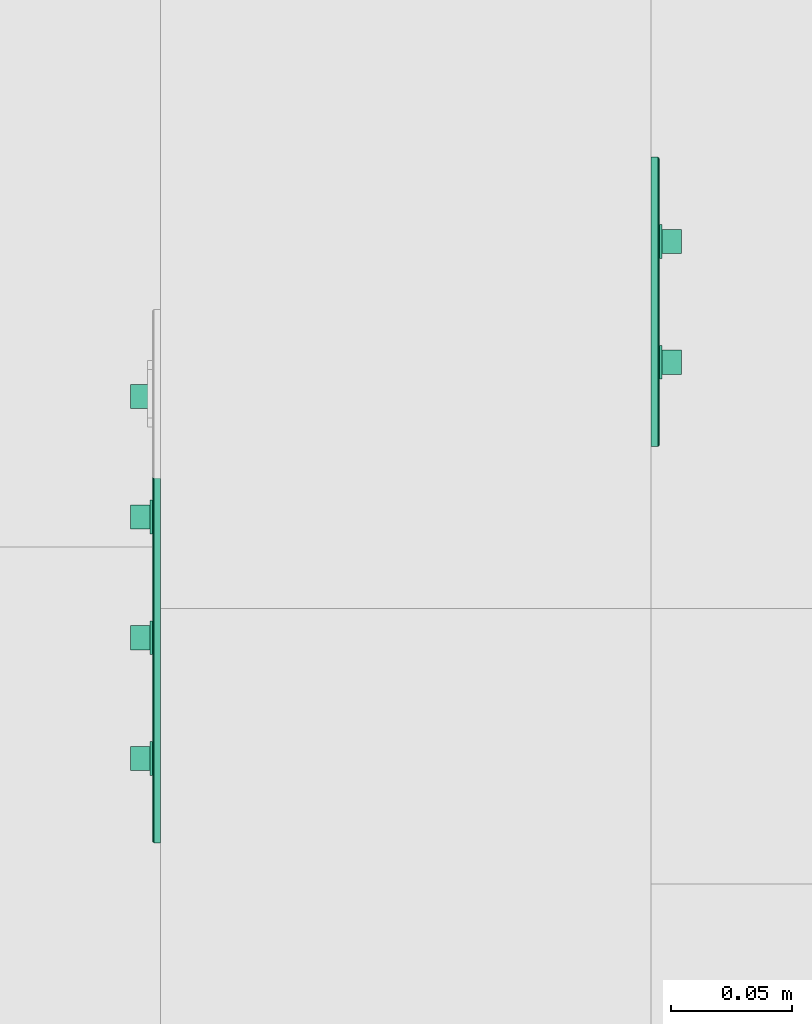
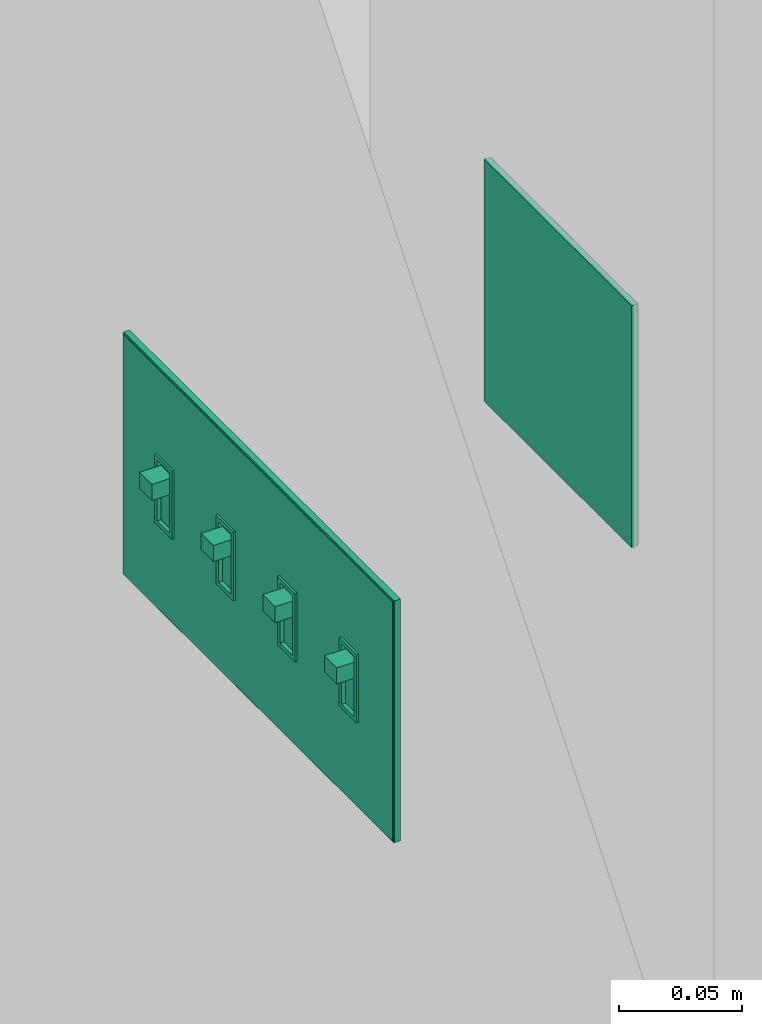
# One storey, part 20 of 103: 2 flow controllers.
"""IFC2X3 building model written with IfcOpenShell, lengths in inches."""

from ifc_helpers import new_model, entity, si_unit, converted_unit, derived_unit, money_unit, direction, frame, origin_with_axes, place, context, subcontext, project, spatial, faceted_brep, source, transform, mapped, type_object, element, save


model = new_model("IFC2X3")

# Units and contexts
model_context = context("Model", 3, precision=0.00039370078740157, world=origin_with_axes(), true_north=direction((0.0, 1.0)))
plan_context = context("Plan", 3, precision=0.00039370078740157, world=origin_with_axes(), true_north=direction((0.0, 1.0)))
body_context = subcontext(model_context, "Body", "Model", "MODEL_VIEW")
ifc_project = project(units=[converted_unit("LENGTHUNIT", "INCH", entity("IfcPositiveLengthMeasure", 0.0254), si_unit("LENGTHUNIT", "METRE"), dimensions=[1, 0, 0, 0, 0, 0, 0]), converted_unit("AREAUNIT", "SQUARE_FOOT", entity("IfcPositiveLengthMeasure", 0.09290304), si_unit("AREAUNIT", "SQUARE_METRE"), dimensions=[2, 0, 0, 0, 0, 0, 0]), si_unit("PLANEANGLEUNIT", "RADIAN"), si_unit("SOLIDANGLEUNIT", "STERADIAN"), money_unit("USD"), converted_unit("TIMEUNIT", "Year", entity("IfcTimeMeasure", 31557600.0), si_unit("TIMEUNIT", "SECOND"), dimensions=[0, 0, 1, 0, 0, 0, 0]), si_unit("MASSUNIT", "GRAM", prefix="KILO"), si_unit("THERMODYNAMICTEMPERATUREUNIT", "DEGREE_CELSIUS"), si_unit("LUMINOUSINTENSITYUNIT", "LUMEN"), si_unit("ENERGYUNIT", "JOULE", prefix="MEGA"), derived_unit("SPECIFICHEATCAPACITYUNIT", [(si_unit("ENERGYUNIT", "JOULE"), 1), (si_unit("MASSUNIT", "GRAM", prefix="KILO"), -1), (si_unit("THERMODYNAMICTEMPERATUREUNIT", "KELVIN"), -1)])], contexts=[model_context, plan_context])

# Site, building, storey
site_placement = place(None, origin_with_axes())
site = spatial("IfcSite", under=ifc_project, at=site_placement, Name="Site", CompositionType="ELEMENT")
building_placement = place(site_placement, origin_with_axes())
building = spatial("IfcBuilding", under=site, at=building_placement, Name="Building", CompositionType="ELEMENT")
storey_placement = place(building_placement, frame((0.0, 0.0, 127.9999999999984), z_axis=(0.0, 0.0, 1.0), x_axis=(1.0, 0.0, 0.0)))
storey = spatial("IfcBuildingStorey", under=building, at=storey_placement, Name="Second Floor", CompositionType="ELEMENT", Elevation=128.0)

# Flow controllers
switching_device_type = type_object("IfcSwitchingDeviceType", Name="Switch US", PredefinedType="NOTDEFINED")
shared_shape_1 = source(origin_with_axes(), body_context, "Body", "Brep", [
    faceted_brep([(3.14960629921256, 0.0, -0.5905511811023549), (2.755905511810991, 0.0, -0.5905511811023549), (2.755905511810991, 0.0, 0.5905511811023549), (3.14960629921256, 0.0, 0.5905511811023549), (3.14960629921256, -0.1033464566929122, -0.5905511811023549), (2.755905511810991, -0.1033464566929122, -0.5905511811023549), (2.755905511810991, -0.1033464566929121, 0.157480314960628), (2.755905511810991, -0.4970472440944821, 0.1574803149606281), (2.755905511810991, -0.4970472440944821, 0.472440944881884), (2.755905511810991, -0.1033464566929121, 0.472440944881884), (2.755905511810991, -0.1033464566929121, 0.5905511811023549), (3.14960629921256, -0.103346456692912, 0.5905511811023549), (3.14960629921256, -0.1033464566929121, 0.472440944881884), (3.14960629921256, -0.4970472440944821, 0.472440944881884), (3.14960629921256, -0.4970472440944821, 0.1574803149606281), (3.14960629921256, -0.1033464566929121, 0.157480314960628)], [[[0, 1, 2, 3]], [[4, 5, 1, 0]], [[1, 5, 6, 7, 8, 9, 10, 2]], [[3, 2, 10, 11]], [[0, 3, 11, 12, 13, 14, 15, 4]], [[15, 6, 5, 4]], [[14, 7, 6, 15]], [[13, 8, 7, 14]], [[12, 9, 8, 13]], [[11, 10, 9, 12]]]),
    faceted_brep([(3.228346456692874, 0.0, -0.669291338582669), (3.228346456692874, -0.1771653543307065, -0.669291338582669), (2.677165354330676, -0.1771653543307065, -0.669291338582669), (2.677165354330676, 0.0, -0.669291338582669), (3.228346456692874, 0.0, 0.669291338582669), (3.228346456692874, -0.1771653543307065, 0.669291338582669), (2.677165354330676, -0.1771653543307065, 0.669291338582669), (3.14960629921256, -0.1771653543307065, -0.5905511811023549), (2.75590551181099, -0.1771653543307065, -0.5905511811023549), (2.75590551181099, -0.1771653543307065, 0.5905511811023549), (3.14960629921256, -0.1771653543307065, 0.5905511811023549), (2.677165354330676, 0.0, 0.669291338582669), (3.14960629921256, 0.0, -0.5905511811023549), (3.14960629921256, 0.0, 0.5905511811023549), (2.75590551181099, 0.0, 0.5905511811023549), (2.75590551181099, 0.0, -0.5905511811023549)], [[[0, 1, 2, 3]], [[4, 5, 1, 0]], [[1, 5, 6, 2], [7, 8, 9, 10]], [[3, 2, 6, 11]], [[0, 3, 11, 4], [12, 13, 14, 15]], [[11, 6, 5, 4]], [[15, 8, 7, 12]], [[14, 9, 8, 15]], [[13, 10, 9, 14]], [[12, 7, 10, 13]]]),
    faceted_brep([(1.968503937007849, -0.103346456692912, 2.362204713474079), (4.330708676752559, -0.103346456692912, 2.362204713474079), (4.330708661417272, 0.0, 2.36220472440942), (1.968503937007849, 0.0, 2.36220472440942), (1.968503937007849, -0.1122624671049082, 2.361030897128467), (4.329534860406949, -0.1122624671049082, 2.361030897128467), (4.330708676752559, -0.1033464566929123, -2.36220473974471), (4.330708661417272, 0.0, -2.36220472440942), (1.968503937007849, 0.0, -2.36220472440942), (2.677165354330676, 0.0, -0.669291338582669), (3.228346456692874, 0.0, -0.669291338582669), (3.228346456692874, 0.0, 0.669291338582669), (2.677165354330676, 0.0, 0.669291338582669), (1.968503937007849, -0.1033464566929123, -2.36220473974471), (1.968503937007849, -0.1122624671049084, -2.361030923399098), (1.968503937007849, -0.1277054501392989, -2.352114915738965), (1.968503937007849, -0.1366214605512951, -2.336671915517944), (1.968503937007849, -0.1377952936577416, -2.327755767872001), (1.968503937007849, -0.1377952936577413, 2.32775574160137), (1.968503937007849, -0.1366214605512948, 2.336671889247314), (1.968503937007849, -0.1277054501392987, 2.352114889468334), (4.320618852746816, -0.1277054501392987, 2.352114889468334), (4.329534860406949, -0.1122624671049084, -2.361030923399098), (2.677165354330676, -0.1377952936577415, -0.669291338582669), (3.228346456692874, -0.1377952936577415, -0.669291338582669), (3.228346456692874, -0.1377952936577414, 0.669291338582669), (2.677165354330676, -0.1377952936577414, 0.669291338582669), (4.320618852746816, -0.1277054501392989, -2.352114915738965), (4.305175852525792, -0.1366214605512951, -2.336671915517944), (4.296259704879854, -0.1377952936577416, -2.327755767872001), (4.296259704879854, -0.1377952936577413, 2.32775574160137), (4.305175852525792, -0.1366214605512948, 2.336671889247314)], [[[0, 1, 2, 3]], [[4, 5, 1, 0]], [[6, 7, 2, 1]], [[3, 2, 7, 8], [9, 10, 11, 12]], [[8, 13, 14, 15, 16, 17, 18, 19, 20, 4, 0, 3]], [[20, 21, 5, 4]], [[22, 6, 1, 5]], [[8, 7, 6, 13]], [[10, 9, 23, 24]], [[11, 10, 24, 25]], [[12, 11, 25, 26]], [[9, 12, 26, 23]], [[13, 6, 22, 14]], [[14, 22, 27, 15]], [[15, 27, 28, 16]], [[16, 28, 29, 17]], [[17, 29, 30, 18], [25, 24, 23, 26]], [[18, 30, 31, 19]], [[19, 31, 21, 20]], [[27, 22, 5, 21]], [[28, 27, 21, 31]], [[29, 28, 31, 30]]]),
    faceted_brep([(1.18110236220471, 0.0, -0.5905511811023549), (0.7874015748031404, 0.0, -0.5905511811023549), (0.7874015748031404, 0.0, 0.5905511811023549), (1.18110236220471, 0.0, 0.5905511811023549), (1.18110236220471, -0.1033464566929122, -0.5905511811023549), (0.7874015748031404, -0.1033464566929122, -0.5905511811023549), (0.7874015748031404, -0.1033464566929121, 0.157480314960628), (0.7874015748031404, -0.4970472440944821, 0.1574803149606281), (0.7874015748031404, -0.4970472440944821, 0.472440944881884), (0.7874015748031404, -0.1033464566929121, 0.472440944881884), (0.7874015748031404, -0.1033464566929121, 0.5905511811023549), (1.18110236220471, -0.103346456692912, 0.5905511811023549), (1.18110236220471, -0.1033464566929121, 0.472440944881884), (1.18110236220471, -0.4970472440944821, 0.472440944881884), (1.18110236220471, -0.4970472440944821, 0.1574803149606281), (1.18110236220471, -0.1033464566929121, 0.157480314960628)], [[[0, 1, 2, 3]], [[4, 5, 1, 0]], [[1, 5, 6, 7, 8, 9, 10, 2]], [[3, 2, 10, 11]], [[0, 3, 11, 12, 13, 14, 15, 4]], [[15, 6, 5, 4]], [[14, 7, 6, 15]], [[13, 8, 7, 14]], [[12, 9, 8, 13]], [[11, 10, 9, 12]]]),
    faceted_brep([(1.259842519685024, 0.0, -0.669291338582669), (1.259842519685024, -0.1771653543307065, -0.669291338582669), (0.7086614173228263, -0.1771653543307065, -0.669291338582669), (0.7086614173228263, 0.0, -0.669291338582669), (1.259842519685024, 0.0, 0.669291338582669), (1.259842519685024, -0.1771653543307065, 0.669291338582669), (0.7086614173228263, -0.1771653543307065, 0.669291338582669), (1.18110236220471, -0.1771653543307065, -0.5905511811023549), (0.7874015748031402, -0.1771653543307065, -0.5905511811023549), (0.7874015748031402, -0.1771653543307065, 0.5905511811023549), (1.18110236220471, -0.1771653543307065, 0.5905511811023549), (0.7086614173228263, 0.0, 0.669291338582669), (1.18110236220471, 0.0, -0.5905511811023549), (1.18110236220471, 0.0, 0.5905511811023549), (0.7874015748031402, 0.0, 0.5905511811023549), (0.7874015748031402, 0.0, -0.5905511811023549)], [[[0, 1, 2, 3]], [[4, 5, 1, 0]], [[1, 5, 6, 2], [7, 8, 9, 10]], [[3, 2, 6, 11]], [[0, 3, 11, 4], [12, 13, 14, 15]], [[11, 6, 5, 4]], [[15, 8, 7, 12]], [[14, 9, 8, 15]], [[13, 10, 9, 14]], [[12, 7, 10, 13]]]),
    faceted_brep([(1.968503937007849, 0.0, -2.36220472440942), (0.0, 0.0, -2.36220472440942), (0.0, 0.0, 2.36220472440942), (1.968503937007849, 0.0, 2.36220472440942), (0.7086614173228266, 0.0, 0.669291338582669), (0.7086614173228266, 0.0, -0.669291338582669), (1.259842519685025, 0.0, -0.669291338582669), (1.259842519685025, 0.0, 0.669291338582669), (1.968503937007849, -0.1033464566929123, -2.36220473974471), (0.0, -0.1033464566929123, -2.36220473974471), (0.0, -0.1277054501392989, -2.352114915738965), (0.0, -0.1366214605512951, -2.336671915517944), (0.0, -0.1377952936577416, -2.327755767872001), (0.0, -0.1377952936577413, 2.32775574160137), (0.0, -0.1366214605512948, 2.336671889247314), (0.0, -0.1277054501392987, 2.352114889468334), (0.0, -0.1122624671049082, 2.361030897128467), (0.0, -0.103346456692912, 2.362204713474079), (0.0, -0.1122624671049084, -2.361030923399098), (1.968503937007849, -0.103346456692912, 2.362204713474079), (1.968503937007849, -0.1122624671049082, 2.361030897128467), (1.968503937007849, -0.1277054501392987, 2.352114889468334), (1.968503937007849, -0.1366214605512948, 2.336671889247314), (1.968503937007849, -0.1377952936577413, 2.32775574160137), (1.968503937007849, -0.1377952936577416, -2.327755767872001), (1.968503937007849, -0.1366214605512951, -2.336671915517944), (1.968503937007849, -0.1277054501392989, -2.352114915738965), (1.968503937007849, -0.1122624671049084, -2.361030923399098), (0.7086614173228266, -0.1377952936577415, -0.669291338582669), (0.7086614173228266, -0.1377952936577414, 0.669291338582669), (1.259842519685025, -0.1377952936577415, -0.669291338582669), (1.259842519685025, -0.1377952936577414, 0.669291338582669)], [[[0, 1, 2, 3], [4, 5, 6, 7]], [[8, 9, 1, 0]], [[10, 11, 12, 13, 14, 15, 16, 17, 2, 1, 9, 18]], [[3, 2, 17, 19]], [[19, 20, 21, 22, 23, 24, 25, 26, 27, 8, 0, 3]], [[28, 5, 4, 29]], [[30, 6, 5, 28]], [[31, 7, 6, 30]], [[29, 4, 7, 31]], [[27, 18, 9, 8]], [[25, 11, 10, 26]], [[24, 12, 11, 25]], [[23, 13, 12, 24], [29, 31, 30, 28]], [[22, 14, 13, 23]], [[21, 15, 14, 22]], [[20, 16, 15, 21]], [[19, 17, 16, 20]], [[26, 10, 18, 27]]]),
    faceted_brep([(-0.7874015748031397, 0.0, -0.5905511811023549), (-1.18110236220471, 0.0, -0.5905511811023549), (-1.18110236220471, 0.0, 0.5905511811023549), (-0.7874015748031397, 0.0, 0.5905511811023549), (-0.7874015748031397, -0.1033464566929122, -0.5905511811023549), (-1.18110236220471, -0.1033464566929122, -0.5905511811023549), (-1.18110236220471, -0.1033464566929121, 0.157480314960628), (-1.18110236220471, -0.4970472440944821, 0.1574803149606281), (-1.18110236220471, -0.4970472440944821, 0.472440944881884), (-1.18110236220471, -0.1033464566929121, 0.472440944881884), (-1.18110236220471, -0.1033464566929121, 0.5905511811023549), (-0.7874015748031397, -0.103346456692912, 0.5905511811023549), (-0.7874015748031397, -0.1033464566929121, 0.472440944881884), (-0.7874015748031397, -0.4970472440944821, 0.472440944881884), (-0.7874015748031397, -0.4970472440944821, 0.1574803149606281), (-0.7874015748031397, -0.1033464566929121, 0.157480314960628)], [[[0, 1, 2, 3]], [[4, 5, 1, 0]], [[1, 5, 6, 7, 8, 9, 10, 2]], [[3, 2, 10, 11]], [[0, 3, 11, 12, 13, 14, 15, 4]], [[15, 6, 5, 4]], [[14, 7, 6, 15]], [[13, 8, 7, 14]], [[12, 9, 8, 13]], [[11, 10, 9, 12]]]),
    faceted_brep([(-0.7086614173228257, 0.0, -0.669291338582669), (-0.7086614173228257, -0.1771653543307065, -0.669291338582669), (-1.259842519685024, -0.1771653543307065, -0.669291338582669), (-1.259842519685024, 0.0, -0.669291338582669), (-0.7086614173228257, 0.0, 0.669291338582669), (-0.7086614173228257, -0.1771653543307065, 0.669291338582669), (-1.259842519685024, -0.1771653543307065, 0.669291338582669), (-0.7874015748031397, -0.1771653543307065, -0.5905511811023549), (-1.18110236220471, -0.1771653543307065, -0.5905511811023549), (-1.18110236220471, -0.1771653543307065, 0.5905511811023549), (-0.7874015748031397, -0.1771653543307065, 0.5905511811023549), (-1.259842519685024, 0.0, 0.669291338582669), (-0.7874015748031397, 0.0, -0.5905511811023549), (-0.7874015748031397, 0.0, 0.5905511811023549), (-1.18110236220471, 0.0, 0.5905511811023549), (-1.18110236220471, 0.0, -0.5905511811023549)], [[[0, 1, 2, 3]], [[4, 5, 1, 0]], [[1, 5, 6, 2], [7, 8, 9, 10]], [[3, 2, 6, 11]], [[0, 3, 11, 4], [12, 13, 14, 15]], [[11, 6, 5, 4]], [[15, 8, 7, 12]], [[14, 9, 8, 15]], [[13, 10, 9, 14]], [[12, 7, 10, 13]]]),
    faceted_brep([(0.0, 0.0, -2.36220472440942), (-1.968503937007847, 0.0, -2.36220472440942), (-1.968503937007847, 0.0, 2.36220472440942), (0.0, 0.0, 2.36220472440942), (-1.259842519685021, 0.0, 0.669291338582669), (-1.259842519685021, 0.0, -0.669291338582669), (-0.7086614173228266, 0.0, -0.669291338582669), (-0.7086614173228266, 0.0, 0.669291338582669), (0.0, -0.1033464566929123, -2.36220473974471), (-1.968503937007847, -0.1033464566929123, -2.36220473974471), (-1.968503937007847, -0.1277054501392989, -2.352114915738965), (-1.968503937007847, -0.1366214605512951, -2.336671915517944), (-1.968503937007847, -0.1377952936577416, -2.327755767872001), (-1.968503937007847, -0.1377952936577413, 2.32775574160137), (-1.968503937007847, -0.1366214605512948, 2.336671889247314), (-1.968503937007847, -0.1277054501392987, 2.352114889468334), (-1.968503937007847, -0.1122624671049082, 2.361030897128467), (-1.968503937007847, -0.103346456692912, 2.362204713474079), (-1.968503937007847, -0.1122624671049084, -2.361030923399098), (0.0, -0.103346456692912, 2.362204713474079), (0.0, -0.1122624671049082, 2.361030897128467), (0.0, -0.1277054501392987, 2.352114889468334), (0.0, -0.1366214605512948, 2.336671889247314), (0.0, -0.1377952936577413, 2.32775574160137), (0.0, -0.1377952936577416, -2.327755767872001), (0.0, -0.1366214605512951, -2.336671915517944), (0.0, -0.1277054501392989, -2.352114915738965), (0.0, -0.1122624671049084, -2.361030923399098), (-1.259842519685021, -0.1377952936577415, -0.669291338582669), (-1.259842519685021, -0.1377952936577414, 0.669291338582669), (-0.7086614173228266, -0.1377952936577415, -0.669291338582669), (-0.7086614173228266, -0.1377952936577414, 0.669291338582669)], [[[0, 1, 2, 3], [4, 5, 6, 7]], [[8, 9, 1, 0]], [[10, 11, 12, 13, 14, 15, 16, 17, 2, 1, 9, 18]], [[3, 2, 17, 19]], [[19, 20, 21, 22, 23, 24, 25, 26, 27, 8, 0, 3]], [[28, 5, 4, 29]], [[30, 6, 5, 28]], [[31, 7, 6, 30]], [[29, 4, 7, 31]], [[27, 18, 9, 8]], [[25, 11, 10, 26]], [[24, 12, 11, 25]], [[23, 13, 12, 24], [29, 31, 30, 28]], [[22, 14, 13, 23]], [[21, 15, 14, 22]], [[20, 16, 15, 21]], [[19, 17, 16, 20]], [[26, 10, 18, 27]]]),
    faceted_brep([(-2.755905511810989, 0.0, -0.5905511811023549), (-3.14960629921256, 0.0, -0.5905511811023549), (-3.14960629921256, 0.0, 0.5905511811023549), (-2.755905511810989, 0.0, 0.5905511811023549), (-2.755905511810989, -0.1033464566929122, -0.5905511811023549), (-3.14960629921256, -0.1033464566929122, -0.5905511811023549), (-3.14960629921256, -0.1033464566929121, 0.157480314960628), (-3.14960629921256, -0.4970472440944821, 0.1574803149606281), (-3.14960629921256, -0.4970472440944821, 0.472440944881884), (-3.14960629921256, -0.1033464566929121, 0.472440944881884), (-3.14960629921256, -0.1033464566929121, 0.5905511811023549), (-2.755905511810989, -0.103346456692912, 0.5905511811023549), (-2.755905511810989, -0.1033464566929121, 0.472440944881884), (-2.755905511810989, -0.4970472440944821, 0.472440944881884), (-2.755905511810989, -0.4970472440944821, 0.1574803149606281), (-2.755905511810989, -0.1033464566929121, 0.157480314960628)], [[[0, 1, 2, 3]], [[4, 5, 1, 0]], [[1, 5, 6, 7, 8, 9, 10, 2]], [[3, 2, 10, 11]], [[0, 3, 11, 12, 13, 14, 15, 4]], [[15, 6, 5, 4]], [[14, 7, 6, 15]], [[13, 8, 7, 14]], [[12, 9, 8, 13]], [[11, 10, 9, 12]]]),
    faceted_brep([(-2.677165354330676, 0.0, -0.669291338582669), (-2.677165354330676, -0.1771653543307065, -0.669291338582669), (-3.228346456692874, -0.1771653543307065, -0.669291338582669), (-3.228346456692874, 0.0, -0.669291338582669), (-2.677165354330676, 0.0, 0.669291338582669), (-2.677165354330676, -0.1771653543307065, 0.669291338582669), (-3.228346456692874, -0.1771653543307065, 0.669291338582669), (-2.75590551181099, -0.1771653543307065, -0.5905511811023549), (-3.14960629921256, -0.1771653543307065, -0.5905511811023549), (-3.14960629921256, -0.1771653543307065, 0.5905511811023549), (-2.75590551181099, -0.1771653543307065, 0.5905511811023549), (-3.228346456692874, 0.0, 0.669291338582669), (-2.75590551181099, 0.0, -0.5905511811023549), (-2.75590551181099, 0.0, 0.5905511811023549), (-3.14960629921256, 0.0, 0.5905511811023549), (-3.14960629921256, 0.0, -0.5905511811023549)], [[[0, 1, 2, 3]], [[4, 5, 1, 0]], [[1, 5, 6, 2], [7, 8, 9, 10]], [[3, 2, 6, 11]], [[0, 3, 11, 4], [12, 13, 14, 15]], [[11, 6, 5, 4]], [[15, 8, 7, 12]], [[14, 9, 8, 15]], [[13, 10, 9, 14]], [[12, 7, 10, 13]]]),
    faceted_brep([(-1.968503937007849, 0.0, -2.36220472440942), (-4.330708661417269, 0.0, -2.36220472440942), (-4.330708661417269, 0.0, 2.36220472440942), (-1.968503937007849, 0.0, 2.36220472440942), (-3.228346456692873, 0.0, -0.669291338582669), (-2.677165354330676, 0.0, -0.669291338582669), (-2.677165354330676, 0.0, 0.669291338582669), (-3.228346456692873, 0.0, 0.669291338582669), (-1.968503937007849, -0.1033464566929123, -2.36220473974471), (-4.330708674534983, -0.1033464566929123, -2.36220473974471), (-4.330708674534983, -0.103346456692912, 2.362204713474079), (-1.968503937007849, -0.103346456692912, 2.362204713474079), (-1.968503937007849, -0.1122624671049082, 2.361030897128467), (-1.968503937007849, -0.1277054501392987, 2.352114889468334), (-1.968503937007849, -0.1366214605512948, 2.336671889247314), (-1.968503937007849, -0.1377952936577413, 2.32775574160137), (-1.968503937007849, -0.1377952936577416, -2.327755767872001), (-1.968503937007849, -0.1366214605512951, -2.336671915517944), (-1.968503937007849, -0.1277054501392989, -2.352114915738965), (-1.968503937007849, -0.1122624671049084, -2.361030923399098), (-3.228346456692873, -0.1377952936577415, -0.669291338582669), (-2.677165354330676, -0.1377952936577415, -0.669291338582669), (-2.677165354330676, -0.1377952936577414, 0.669291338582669), (-3.228346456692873, -0.1377952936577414, 0.669291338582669), (-4.329534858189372, -0.1122624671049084, -2.361030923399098), (-4.329534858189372, -0.1122624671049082, 2.361030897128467), (-4.32061885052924, -0.1277054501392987, 2.352114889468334), (-4.30517585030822, -0.1366214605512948, 2.336671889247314), (-4.296259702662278, -0.1377952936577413, 2.32775574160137), (-4.296259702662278, -0.1377952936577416, -2.327755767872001), (-4.30517585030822, -0.1366214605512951, -2.336671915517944), (-4.32061885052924, -0.1277054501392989, -2.352114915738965)], [[[0, 1, 2, 3], [4, 5, 6, 7]], [[8, 9, 1, 0]], [[10, 2, 1, 9]], [[3, 2, 10, 11]], [[11, 12, 13, 14, 15, 16, 17, 18, 19, 8, 0, 3]], [[5, 4, 20, 21]], [[6, 5, 21, 22]], [[7, 6, 22, 23]], [[4, 7, 23, 20]], [[19, 24, 9, 8]], [[25, 10, 9, 24]], [[11, 10, 25, 12]], [[12, 25, 26, 13]], [[13, 26, 27, 14]], [[14, 27, 28, 15]], [[15, 28, 29, 16], [22, 21, 20, 23]], [[16, 29, 30, 17]], [[17, 30, 31, 18]], [[18, 31, 24, 19]], [[26, 25, 24, 31]], [[27, 26, 31, 30]], [[28, 27, 30, 29]]]),
])
flow_controller_1_placement = place(storey_placement, frame((-75.74999999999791, 378.5053052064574, 44.99999999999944), z_axis=(0.0, 0.0, 1.0), x_axis=(4.087565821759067e-07, -0.9999999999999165, 0.0)))
element("IfcFlowController", 1, at=flow_controller_1_placement, inside=storey, type_object=switching_device_type, Name="OBJ-09", context=body_context, shape_type="MappedRepresentation", body=[
    mapped(shared_shape_1, transform((0.0, 0.0, 0.0))),
])
shared_shape_2 = source(origin_with_axes(), body_context, "Body", "Brep", [
    faceted_brep([(1.18110236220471, 0.0, -0.5905511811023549), (0.7874015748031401, 0.0, -0.5905511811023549), (0.7874015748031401, 0.0, 0.5905511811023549), (1.18110236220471, 0.0, 0.5905511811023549), (1.18110236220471, -0.1033464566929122, -0.5905511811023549), (0.7874015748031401, -0.1033464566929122, -0.5905511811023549), (0.7874015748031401, -0.1033464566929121, 0.157480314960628), (0.7874015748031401, -0.4970472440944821, 0.1574803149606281), (0.7874015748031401, -0.4970472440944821, 0.472440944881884), (0.7874015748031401, -0.1033464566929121, 0.472440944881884), (0.7874015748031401, -0.1033464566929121, 0.5905511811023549), (1.18110236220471, -0.103346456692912, 0.5905511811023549), (1.18110236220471, -0.1033464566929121, 0.472440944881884), (1.18110236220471, -0.4970472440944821, 0.472440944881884), (1.18110236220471, -0.4970472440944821, 0.1574803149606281), (1.18110236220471, -0.1033464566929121, 0.157480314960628)], [[[0, 1, 2, 3]], [[4, 5, 1, 0]], [[1, 5, 6, 7, 8, 9, 10, 2]], [[3, 2, 10, 11]], [[0, 3, 11, 12, 13, 14, 15, 4]], [[15, 6, 5, 4]], [[14, 7, 6, 15]], [[13, 8, 7, 14]], [[12, 9, 8, 13]], [[11, 10, 9, 12]]]),
    faceted_brep([(1.259842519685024, 0.0, -0.669291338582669), (1.259842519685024, -0.1771653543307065, -0.669291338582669), (0.7086614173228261, -0.1771653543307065, -0.669291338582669), (0.7086614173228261, 0.0, -0.669291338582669), (1.259842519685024, 0.0, 0.669291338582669), (1.259842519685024, -0.1771653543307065, 0.669291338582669), (0.7086614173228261, -0.1771653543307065, 0.669291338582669), (1.18110236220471, -0.1771653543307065, -0.5905511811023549), (0.78740157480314, -0.1771653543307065, -0.5905511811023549), (0.78740157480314, -0.1771653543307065, 0.5905511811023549), (1.18110236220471, -0.1771653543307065, 0.5905511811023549), (0.7086614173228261, 0.0, 0.669291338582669), (1.18110236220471, 0.0, -0.5905511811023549), (1.18110236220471, 0.0, 0.5905511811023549), (0.78740157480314, 0.0, 0.5905511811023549), (0.78740157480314, 0.0, -0.5905511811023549)], [[[0, 1, 2, 3]], [[4, 5, 1, 0]], [[1, 5, 6, 2], [7, 8, 9, 10]], [[3, 2, 6, 11]], [[0, 3, 11, 4], [12, 13, 14, 15]], [[11, 6, 5, 4]], [[15, 8, 7, 12]], [[14, 9, 8, 15]], [[13, 10, 9, 14]], [[12, 7, 10, 13]]]),
    faceted_brep([(0.0, -0.103346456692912, 2.362204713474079), (2.362204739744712, -0.103346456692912, 2.362204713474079), (2.36220472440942, 0.0, 2.36220472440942), (0.0, 0.0, 2.36220472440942), (0.0, -0.1122624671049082, 2.361030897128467), (2.361030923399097, -0.1122624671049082, 2.361030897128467), (2.362204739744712, -0.1033464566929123, -2.36220473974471), (2.36220472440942, 0.0, -2.36220472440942), (0.0, 0.0, -2.36220472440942), (0.7086614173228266, 0.0, -0.669291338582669), (1.259842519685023, 0.0, -0.669291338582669), (1.259842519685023, 0.0, 0.669291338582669), (0.7086614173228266, 0.0, 0.669291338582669), (0.0, -0.1033464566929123, -2.36220473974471), (0.0, -0.1122624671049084, -2.361030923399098), (0.0, -0.1277054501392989, -2.352114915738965), (0.0, -0.1366214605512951, -2.336671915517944), (0.0, -0.1377952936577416, -2.327755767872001), (0.0, -0.1377952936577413, 2.32775574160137), (0.0, -0.1366214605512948, 2.336671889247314), (0.0, -0.1277054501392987, 2.352114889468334), (2.352114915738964, -0.1277054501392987, 2.352114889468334), (2.361030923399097, -0.1122624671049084, -2.361030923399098), (0.7086614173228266, -0.1377952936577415, -0.669291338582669), (1.259842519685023, -0.1377952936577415, -0.669291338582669), (1.259842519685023, -0.1377952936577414, 0.669291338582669), (0.7086614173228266, -0.1377952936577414, 0.669291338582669), (2.352114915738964, -0.1277054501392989, -2.352114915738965), (2.336671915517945, -0.1366214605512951, -2.336671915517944), (2.327755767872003, -0.1377952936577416, -2.327755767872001), (2.327755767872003, -0.1377952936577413, 2.32775574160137), (2.336671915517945, -0.1366214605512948, 2.336671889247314)], [[[0, 1, 2, 3]], [[4, 5, 1, 0]], [[6, 7, 2, 1]], [[3, 2, 7, 8], [9, 10, 11, 12]], [[8, 13, 14, 15, 16, 17, 18, 19, 20, 4, 0, 3]], [[20, 21, 5, 4]], [[22, 6, 1, 5]], [[8, 7, 6, 13]], [[10, 9, 23, 24]], [[11, 10, 24, 25]], [[12, 11, 25, 26]], [[9, 12, 26, 23]], [[13, 6, 22, 14]], [[14, 22, 27, 15]], [[15, 27, 28, 16]], [[16, 28, 29, 17]], [[17, 29, 30, 18], [25, 24, 23, 26]], [[18, 30, 31, 19]], [[19, 31, 21, 20]], [[27, 22, 5, 21]], [[28, 27, 21, 31]], [[29, 28, 31, 30]]]),
    faceted_brep([(-0.78740157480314, 0.0, -0.5905511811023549), (-1.18110236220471, 0.0, -0.5905511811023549), (-1.18110236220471, 0.0, 0.5905511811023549), (-0.78740157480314, 0.0, 0.5905511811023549), (-0.78740157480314, -0.1033464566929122, -0.5905511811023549), (-1.18110236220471, -0.1033464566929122, -0.5905511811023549), (-1.18110236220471, -0.1033464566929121, 0.157480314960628), (-1.18110236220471, -0.4970472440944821, 0.1574803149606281), (-1.18110236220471, -0.4970472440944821, 0.472440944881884), (-1.18110236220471, -0.1033464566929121, 0.472440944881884), (-1.18110236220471, -0.1033464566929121, 0.5905511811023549), (-0.78740157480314, -0.103346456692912, 0.5905511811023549), (-0.78740157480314, -0.1033464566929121, 0.472440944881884), (-0.78740157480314, -0.4970472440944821, 0.472440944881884), (-0.78740157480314, -0.4970472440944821, 0.1574803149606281), (-0.78740157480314, -0.1033464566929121, 0.157480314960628)], [[[0, 1, 2, 3]], [[4, 5, 1, 0]], [[1, 5, 6, 7, 8, 9, 10, 2]], [[3, 2, 10, 11]], [[0, 3, 11, 12, 13, 14, 15, 4]], [[15, 6, 5, 4]], [[14, 7, 6, 15]], [[13, 8, 7, 14]], [[12, 9, 8, 13]], [[11, 10, 9, 12]]]),
    faceted_brep([(-0.7086614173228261, 0.0, -0.669291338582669), (-0.7086614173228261, -0.1771653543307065, -0.669291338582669), (-1.259842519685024, -0.1771653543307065, -0.669291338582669), (-1.259842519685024, 0.0, -0.669291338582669), (-0.7086614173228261, 0.0, 0.669291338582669), (-0.7086614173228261, -0.1771653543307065, 0.669291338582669), (-1.259842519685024, -0.1771653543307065, 0.669291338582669), (-0.78740157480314, -0.1771653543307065, -0.5905511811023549), (-1.18110236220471, -0.1771653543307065, -0.5905511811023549), (-1.18110236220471, -0.1771653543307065, 0.5905511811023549), (-0.78740157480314, -0.1771653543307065, 0.5905511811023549), (-1.259842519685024, 0.0, 0.669291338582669), (-0.78740157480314, 0.0, -0.5905511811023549), (-0.78740157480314, 0.0, 0.5905511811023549), (-1.18110236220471, 0.0, 0.5905511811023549), (-1.18110236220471, 0.0, -0.5905511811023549)], [[[0, 1, 2, 3]], [[4, 5, 1, 0]], [[1, 5, 6, 2], [7, 8, 9, 10]], [[3, 2, 6, 11]], [[0, 3, 11, 4], [12, 13, 14, 15]], [[11, 6, 5, 4]], [[15, 8, 7, 12]], [[14, 9, 8, 15]], [[13, 10, 9, 14]], [[12, 7, 10, 13]]]),
    faceted_brep([(0.0, 0.0, -2.36220472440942), (-2.362204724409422, 0.0, -2.36220472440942), (-2.362204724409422, 0.0, 2.36220472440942), (0.0, 0.0, 2.36220472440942), (-1.259842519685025, 0.0, -0.669291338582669), (-0.7086614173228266, 0.0, -0.669291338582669), (-0.7086614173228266, 0.0, 0.669291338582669), (-1.259842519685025, 0.0, 0.669291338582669), (0.0, -0.1033464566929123, -2.36220473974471), (-2.362204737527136, -0.1033464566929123, -2.36220473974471), (-2.362204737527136, -0.103346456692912, 2.362204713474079), (0.0, -0.103346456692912, 2.362204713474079), (0.0, -0.1122624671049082, 2.361030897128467), (0.0, -0.1277054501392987, 2.352114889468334), (0.0, -0.1366214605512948, 2.336671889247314), (0.0, -0.1377952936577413, 2.32775574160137), (0.0, -0.1377952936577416, -2.327755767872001), (0.0, -0.1366214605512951, -2.336671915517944), (0.0, -0.1277054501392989, -2.352114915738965), (0.0, -0.1122624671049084, -2.361030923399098), (-1.259842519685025, -0.1377952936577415, -0.669291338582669), (-0.7086614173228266, -0.1377952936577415, -0.669291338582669), (-0.7086614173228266, -0.1377952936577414, 0.669291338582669), (-1.259842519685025, -0.1377952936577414, 0.669291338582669), (-2.361030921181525, -0.1122624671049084, -2.361030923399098), (-2.361030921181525, -0.1122624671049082, 2.361030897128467), (-2.352114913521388, -0.1277054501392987, 2.352114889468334), (-2.336671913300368, -0.1366214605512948, 2.336671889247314), (-2.327755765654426, -0.1377952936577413, 2.32775574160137), (-2.327755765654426, -0.1377952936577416, -2.327755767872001), (-2.336671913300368, -0.1366214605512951, -2.336671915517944), (-2.352114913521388, -0.1277054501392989, -2.352114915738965)], [[[0, 1, 2, 3], [4, 5, 6, 7]], [[8, 9, 1, 0]], [[10, 2, 1, 9]], [[3, 2, 10, 11]], [[11, 12, 13, 14, 15, 16, 17, 18, 19, 8, 0, 3]], [[5, 4, 20, 21]], [[6, 5, 21, 22]], [[7, 6, 22, 23]], [[4, 7, 23, 20]], [[19, 24, 9, 8]], [[25, 10, 9, 24]], [[11, 10, 25, 12]], [[12, 25, 26, 13]], [[13, 26, 27, 14]], [[14, 27, 28, 15]], [[15, 28, 29, 16], [22, 21, 20, 23]], [[16, 29, 30, 17]], [[17, 30, 31, 18]], [[18, 31, 24, 19]], [[26, 25, 24, 31]], [[27, 26, 31, 30]], [[28, 27, 30, 29]]]),
])
flow_controller_2_placement = place(storey_placement, frame((-67.74999999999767, 382.9999999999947, 43.99999999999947), z_axis=(0.0, 0.0, 1.0), x_axis=(0.0, 1.0, 0.0)))
element("IfcFlowController", 2, at=flow_controller_2_placement, inside=storey, type_object=switching_device_type, Name="OBJ-09", context=body_context, shape_type="MappedRepresentation", body=[
    mapped(shared_shape_2, transform((0.0, 0.0, 0.0))),
])

save(model, "model.ifc")
